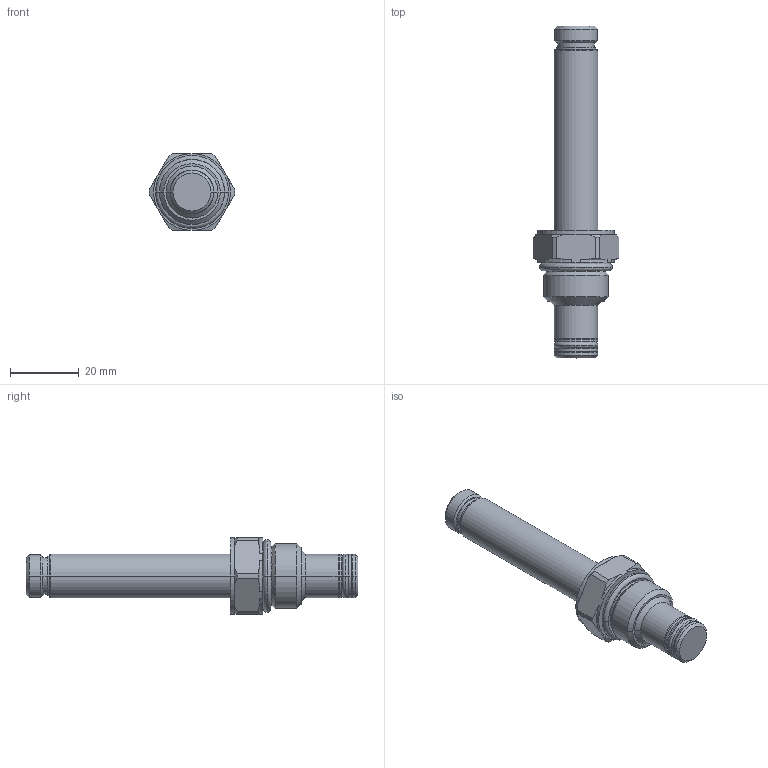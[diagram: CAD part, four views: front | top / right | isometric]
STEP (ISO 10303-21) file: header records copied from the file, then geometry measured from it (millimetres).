
FILE_DESCRIPTION((''),'2;1');
FILE_NAME('5005911_K_SW0001','2009-04-28T',('JCS'),(''),'PRO/ENGINEER BY PARAMETRIC TECHNOLOGY CORPORATION, 2008510','PRO/ENGINEER BY PARAMETRIC TECHNOLOGY CORPORATION, 2008510','');
FILE_SCHEMA(('CONFIG_CONTROL_DESIGN'));
Length unit declared in the file: inch
Products named in the file (1): 5005911_K_SW0001
Bounding box: 24.94 x 96.65 x 22.23 mm (x, y, z)
Volume: 16568.4 mm3; surface area: 6130.3 mm2
Topology: 2 solids, 2 shells, 127 faces, 280 edges, 166 vertices
Faces by surface type: cylinder 42, cone 34, plane 19, torus 16, revolution 16
Entity records: 3852 total; most frequent: CARTESIAN_POINT 973, DIRECTION 630, ORIENTED_EDGE 560, EDGE_CURVE 280, AXIS2_PLACEMENT_3D 263, VERTEX_POINT 166, CIRCLE 152, EDGE_LOOP 138
